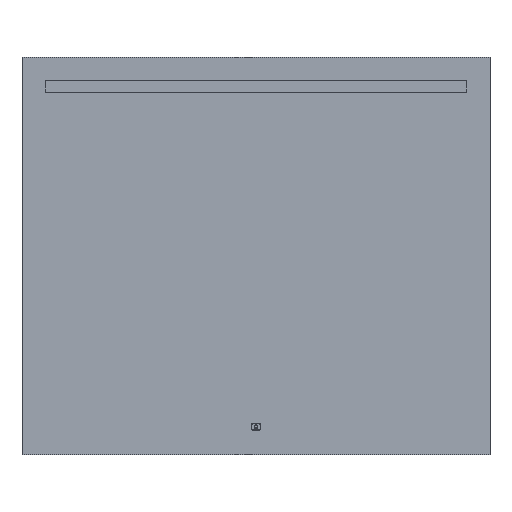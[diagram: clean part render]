
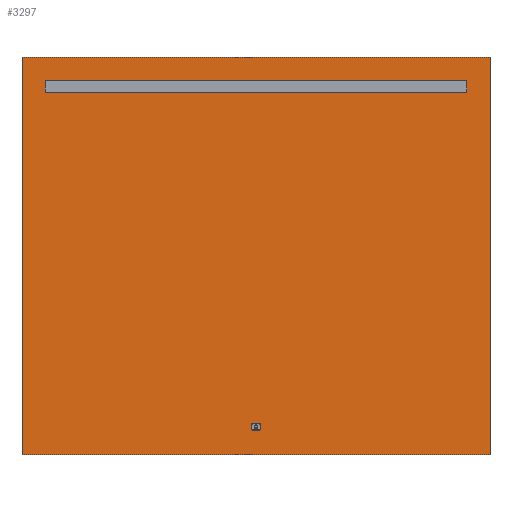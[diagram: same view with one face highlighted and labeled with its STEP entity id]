
A CAD part, top view. The second image highlights one B-rep face of the part: STEP entity #3297.
In plain terms, the highlighted planar face has unit normal (0, 0, 1).
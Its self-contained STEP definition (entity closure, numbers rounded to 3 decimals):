
#52 = ORIENTED_EDGE ( 'NONE', *, *, #209, .T. ) ;
#112 = ORIENTED_EDGE ( 'NONE', *, *, #6128, .F. ) ;
#115 = DIRECTION ( 'NONE',  ( 0., -1., 0. ) ) ;
#140 = CARTESIAN_POINT ( 'NONE',  ( 450., 375., 2.5 ) ) ;
#175 = DIRECTION ( 'NONE',  ( 0., 0., -1. ) ) ;
#209 = EDGE_CURVE ( 'NONE', #1051, #5645, #479, .T. ) ;
#245 = VECTOR ( 'NONE', #554, 1000. ) ;
#272 = VERTEX_POINT ( 'NONE', #7035 ) ;
#281 = ORIENTED_EDGE ( 'NONE', *, *, #5761, .F. ) ;
#305 = VERTEX_POINT ( 'NONE', #437 ) ;
#338 = ORIENTED_EDGE ( 'NONE', *, *, #1457, .F. ) ;
#366 = DIRECTION ( 'NONE',  ( -1., 0., 0. ) ) ;
#381 = AXIS2_PLACEMENT_3D ( 'NONE', #1168, #5630, #1698 ) ;
#410 = FACE_OUTER_BOUND ( 'NONE', #5365, .T. ) ;
#437 = CARTESIAN_POINT ( 'NONE',  ( -6., -357.5, 2.5 ) ) ;
#479 = LINE ( 'NONE', #984, #3264 ) ;
#497 = LINE ( 'NONE', #5198, #1927 ) ;
#504 = LINE ( 'NONE', #2696, #4755 ) ;
#544 = CIRCLE ( 'NONE', #381, 4. ) ;
#550 = EDGE_CURVE ( 'NONE', #4495, #6565, #6854, .T. ) ;
#554 = DIRECTION ( 'NONE',  ( -1., 0., 0. ) ) ;
#617 = EDGE_CURVE ( 'NONE', #6565, #683, #544, .T. ) ;
#618 = VERTEX_POINT ( 'NONE', #6638 ) ;
#683 = VERTEX_POINT ( 'NONE', #5031 ) ;
#700 = DIRECTION ( 'NONE',  ( -1., 0., 0. ) ) ;
#731 = VERTEX_POINT ( 'NONE', #5107 ) ;
#753 = CARTESIAN_POINT ( 'NONE',  ( 0., 0., 2.5 ) ) ;
#834 = DIRECTION ( 'NONE',  ( -1., 0., 0. ) ) ;
#947 = CARTESIAN_POINT ( 'NONE',  ( -450., 350., 2.5 ) ) ;
#961 = DIRECTION ( 'NONE',  ( 1., 0., 0. ) ) ;
#984 = CARTESIAN_POINT ( 'NONE',  ( -500., -425., 2.5 ) ) ;
#1051 = VERTEX_POINT ( 'NONE', #5273 ) ;
#1168 = CARTESIAN_POINT ( 'NONE',  ( -6., -368.5, 2.5 ) ) ;
#1173 = CARTESIAN_POINT ( 'NONE',  ( 10., 0., 2.5 ) ) ;
#1274 = CARTESIAN_POINT ( 'NONE',  ( -6., -361.5, 2.5 ) ) ;
#1311 = CARTESIAN_POINT ( 'NONE',  ( 10., -361.5, 2.5 ) ) ;
#1376 = CARTESIAN_POINT ( 'NONE',  ( 450., 350., 2.5 ) ) ;
#1382 = EDGE_CURVE ( 'NONE', #3702, #1051, #5916, .T. ) ;
#1452 = CARTESIAN_POINT ( 'NONE',  ( 500., -425., 2.5 ) ) ;
#1457 = EDGE_CURVE ( 'NONE', #4387, #5346, #3239, .T. ) ;
#1461 = EDGE_CURVE ( 'NONE', #5346, #5301, #4270, .T. ) ;
#1476 = DIRECTION ( 'NONE',  ( -1., 0., 0. ) ) ;
#1568 = AXIS2_PLACEMENT_3D ( 'NONE', #6810, #2414, #6242 ) ;
#1610 = VECTOR ( 'NONE', #115, 1000. ) ;
#1650 = CIRCLE ( 'NONE', #4834, 4. ) ;
#1658 = LINE ( 'NONE', #6509, #6380 ) ;
#1698 = DIRECTION ( 'NONE',  ( -1., 0., 0. ) ) ;
#1798 = DIRECTION ( 'NONE',  ( 0., 1., 0. ) ) ;
#1869 = VECTOR ( 'NONE', #1476, 1000. ) ;
#1927 = VECTOR ( 'NONE', #5218, 1000. ) ;
#1959 = CARTESIAN_POINT ( 'NONE',  ( 500., -425., 2.5 ) ) ;
#2030 = EDGE_CURVE ( 'NONE', #6408, #6066, #6145, .T. ) ;
#2109 = EDGE_LOOP ( 'NONE', ( #338, #281, #2241, #6890 ) ) ;
#2152 = CIRCLE ( 'NONE', #1568, 4. ) ;
#2174 = LINE ( 'NONE', #6995, #4679 ) ;
#2205 = ORIENTED_EDGE ( 'NONE', *, *, #2030, .F. ) ;
#2215 = CARTESIAN_POINT ( 'NONE',  ( 0., -357.5, 2.5 ) ) ;
#2236 = ORIENTED_EDGE ( 'NONE', *, *, #550, .F. ) ;
#2241 = ORIENTED_EDGE ( 'NONE', *, *, #3485, .F. ) ;
#2414 = DIRECTION ( 'NONE',  ( 0., 0., 1. ) ) ;
#2511 = VERTEX_POINT ( 'NONE', #947 ) ;
#2538 = EDGE_CURVE ( 'NONE', #731, #3702, #2174, .T. ) ;
#2666 = AXIS2_PLACEMENT_3D ( 'NONE', #753, #175, #4059 ) ;
#2696 = CARTESIAN_POINT ( 'NONE',  ( -450., 0., 2.5 ) ) ;
#2699 = VECTOR ( 'NONE', #5757, 1000. ) ;
#2784 = ORIENTED_EDGE ( 'NONE', *, *, #4326, .F. ) ;
#2817 = EDGE_CURVE ( 'NONE', #5645, #731, #5625, .T. ) ;
#2956 = FACE_BOUND ( 'NONE', #2109, .T. ) ;
#2982 = ORIENTED_EDGE ( 'NONE', *, *, #1382, .T. ) ;
#3026 = CIRCLE ( 'NONE', #4788, 4. ) ;
#3067 = CARTESIAN_POINT ( 'NONE',  ( 0., 375., 2.5 ) ) ;
#3239 = LINE ( 'NONE', #6700, #4183 ) ;
#3264 = VECTOR ( 'NONE', #4845, 1000. ) ;
#3297 = ADVANCED_FACE ( 'NONE', ( #3538, #410, #2956 ), #6787, .F. ) ;
#3309 = DIRECTION ( 'NONE',  ( 0., -1., 0. ) ) ;
#3394 = ORIENTED_EDGE ( 'NONE', *, *, #2538, .T. ) ;
#3417 = CARTESIAN_POINT ( 'NONE',  ( -500., -425., 2.5 ) ) ;
#3427 = CARTESIAN_POINT ( 'NONE',  ( -10., -368.5, 2.5 ) ) ;
#3475 = ORIENTED_EDGE ( 'NONE', *, *, #2817, .T. ) ;
#3485 = EDGE_CURVE ( 'NONE', #5301, #2511, #504, .T. ) ;
#3538 = FACE_BOUND ( 'NONE', #5891, .T. ) ;
#3702 = VERTEX_POINT ( 'NONE', #7051 ) ;
#3710 = DIRECTION ( 'NONE',  ( 0., -1., 0. ) ) ;
#3793 = CARTESIAN_POINT ( 'NONE',  ( 10., -368.5, 2.5 ) ) ;
#3840 = CARTESIAN_POINT ( 'NONE',  ( -10., -361.5, 2.5 ) ) ;
#3853 = CARTESIAN_POINT ( 'NONE',  ( -450., 375., 2.5 ) ) ;
#4040 = EDGE_CURVE ( 'NONE', #618, #305, #5949, .T. ) ;
#4059 = DIRECTION ( 'NONE',  ( -1., 0., 0. ) ) ;
#4183 = VECTOR ( 'NONE', #1798, 1000. ) ;
#4270 = LINE ( 'NONE', #3067, #1869 ) ;
#4326 = EDGE_CURVE ( 'NONE', #272, #6408, #1650, .T. ) ;
#4387 = VERTEX_POINT ( 'NONE', #1376 ) ;
#4438 = VECTOR ( 'NONE', #3309, 1000. ) ;
#4495 = VERTEX_POINT ( 'NONE', #3840 ) ;
#4679 = VECTOR ( 'NONE', #366, 1000. ) ;
#4755 = VECTOR ( 'NONE', #3710, 1000. ) ;
#4768 = EDGE_CURVE ( 'NONE', #305, #4495, #3026, .T. ) ;
#4788 = AXIS2_PLACEMENT_3D ( 'NONE', #1274, #6768, #700 ) ;
#4820 = EDGE_CURVE ( 'NONE', #6066, #618, #2152, .T. ) ;
#4834 = AXIS2_PLACEMENT_3D ( 'NONE', #6362, #6951, #834 ) ;
#4845 = DIRECTION ( 'NONE',  ( 1., 0., 0. ) ) ;
#4909 = ORIENTED_EDGE ( 'NONE', *, *, #617, .F. ) ;
#5031 = CARTESIAN_POINT ( 'NONE',  ( -6., -372.5, 2.5 ) ) ;
#5038 = DIRECTION ( 'NONE',  ( 0., 1., 0. ) ) ;
#5107 = CARTESIAN_POINT ( 'NONE',  ( 500., 425., 2.5 ) ) ;
#5198 = CARTESIAN_POINT ( 'NONE',  ( 0., -372.5, 2.5 ) ) ;
#5218 = DIRECTION ( 'NONE',  ( 1., 0., 0. ) ) ;
#5259 = ORIENTED_EDGE ( 'NONE', *, *, #4040, .F. ) ;
#5273 = CARTESIAN_POINT ( 'NONE',  ( -500., -425., 2.5 ) ) ;
#5301 = VERTEX_POINT ( 'NONE', #3853 ) ;
#5346 = VERTEX_POINT ( 'NONE', #140 ) ;
#5365 = EDGE_LOOP ( 'NONE', ( #3475, #3394, #2982, #52 ) ) ;
#5625 = LINE ( 'NONE', #1959, #2699 ) ;
#5630 = DIRECTION ( 'NONE',  ( 0., 0., 1. ) ) ;
#5645 = VERTEX_POINT ( 'NONE', #1452 ) ;
#5757 = DIRECTION ( 'NONE',  ( 0., 1., 0. ) ) ;
#5761 = EDGE_CURVE ( 'NONE', #2511, #4387, #1658, .T. ) ;
#5891 = EDGE_LOOP ( 'NONE', ( #6884, #2205, #2784, #112, #4909, #2236, #7059, #5259 ) ) ;
#5916 = LINE ( 'NONE', #3417, #1610 ) ;
#5949 = LINE ( 'NONE', #2215, #245 ) ;
#6061 = VECTOR ( 'NONE', #5038, 1000. ) ;
#6066 = VERTEX_POINT ( 'NONE', #1311 ) ;
#6128 = EDGE_CURVE ( 'NONE', #683, #272, #497, .T. ) ;
#6145 = LINE ( 'NONE', #1173, #6061 ) ;
#6242 = DIRECTION ( 'NONE',  ( -1., 0., 0. ) ) ;
#6246 = CARTESIAN_POINT ( 'NONE',  ( -10., 0., 2.5 ) ) ;
#6362 = CARTESIAN_POINT ( 'NONE',  ( 6., -368.5, 2.5 ) ) ;
#6380 = VECTOR ( 'NONE', #961, 1000. ) ;
#6408 = VERTEX_POINT ( 'NONE', #3793 ) ;
#6509 = CARTESIAN_POINT ( 'NONE',  ( 0., 350., 2.5 ) ) ;
#6565 = VERTEX_POINT ( 'NONE', #3427 ) ;
#6638 = CARTESIAN_POINT ( 'NONE',  ( 6., -357.5, 2.5 ) ) ;
#6700 = CARTESIAN_POINT ( 'NONE',  ( 450., 0., 2.5 ) ) ;
#6768 = DIRECTION ( 'NONE',  ( 0., 0., 1. ) ) ;
#6787 = PLANE ( 'NONE',  #2666 ) ;
#6810 = CARTESIAN_POINT ( 'NONE',  ( 6., -361.5, 2.5 ) ) ;
#6854 = LINE ( 'NONE', #6246, #4438 ) ;
#6884 = ORIENTED_EDGE ( 'NONE', *, *, #4820, .F. ) ;
#6890 = ORIENTED_EDGE ( 'NONE', *, *, #1461, .F. ) ;
#6951 = DIRECTION ( 'NONE',  ( 0., 0., 1. ) ) ;
#6995 = CARTESIAN_POINT ( 'NONE',  ( -500., 425., 2.5 ) ) ;
#7035 = CARTESIAN_POINT ( 'NONE',  ( 6., -372.5, 2.5 ) ) ;
#7051 = CARTESIAN_POINT ( 'NONE',  ( -500., 425., 2.5 ) ) ;
#7059 = ORIENTED_EDGE ( 'NONE', *, *, #4768, .F. ) ;
